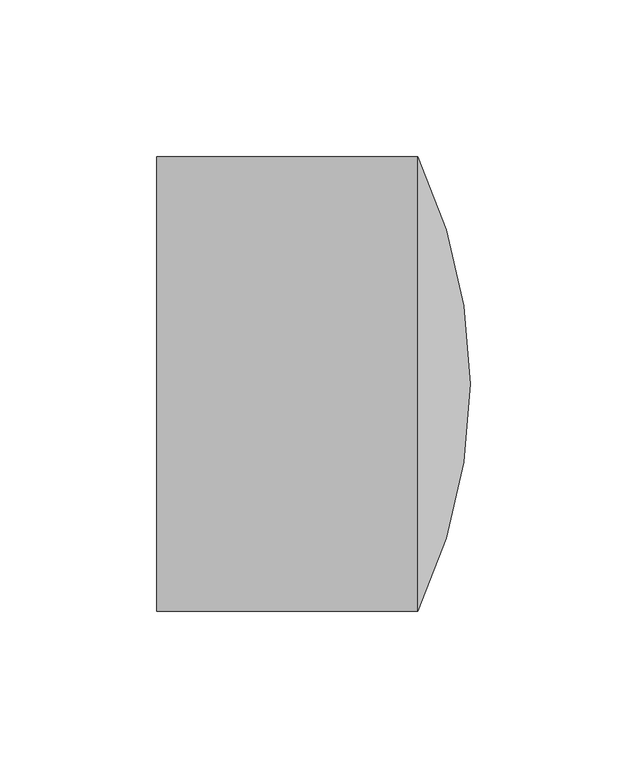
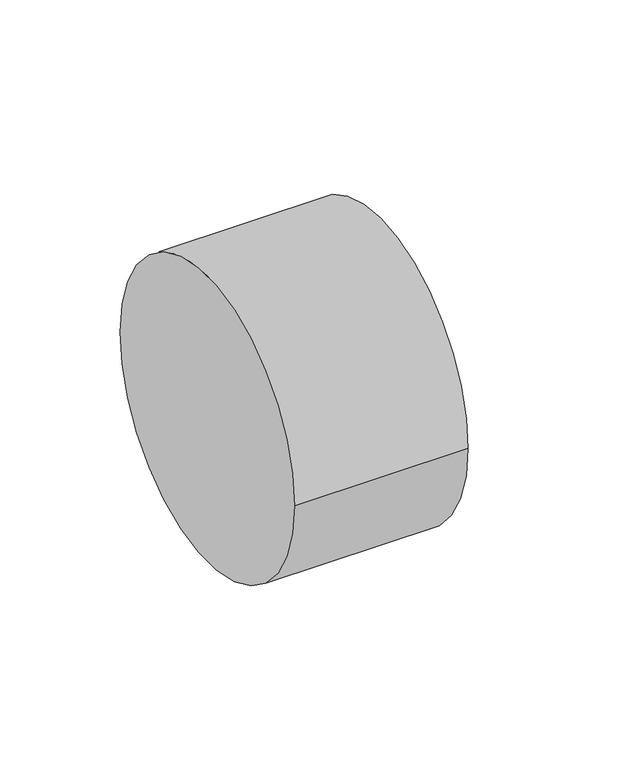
"""IFC4 building model written with IfcOpenShell, lengths in millimetres: pipe fitting geometry, 01051012 : Tampão F."""

from ifc_helpers import new_model, si_unit, point, frame, origin, place, context, project, spatial, circle_curve, ellipse_curve, trimmed, source, transform, mapped, element, save
from ifc_brep_helpers import plane_surface, cylinder_surface, revolved_surface, advanced_brep


def pipe_fitting_13b92508(model_context):
    return source(origin(), model_context, "Body", "AdvancedBrep", [
        advanced_brep(
        [(83.3333333, 72.5, 0.0), (100.0, 0.0, 0.0), (83.3333333, -72.5, 0.0), (0.0, -72.5, 0.0), (0.0, 72.5, 0.0)],
        [
            (0, 1, circle_curve(frame((-71.8638546, -1.3432233, 0.0), z_axis=(0.0, 0.0, -1.0), x_axis=(1.0, 0.0, 0.0)), 171.8691036)),
            (1, 2, circle_curve(frame((-71.8638546, 1.3432233, 0.0), z_axis=(0.0, 0.0, -1.0), x_axis=(1.0, 0.0, 0.0)), 171.8691036)),
            (2, 0, circle_curve(frame((83.3333333, 0.0, 0.0), z_axis=(1.0, 0.0, 0.0), x_axis=(0.0, 1.0, 0.0)), 72.5)),
            (0, 2, circle_curve(frame((83.3333333, 0.0, 0.0), z_axis=(1.0, 0.0, 0.0), x_axis=(0.0, 1.0, 0.0)), 72.5)),
            (3, 4, circle_curve(frame((0.0, 0.0, 0.0), z_axis=(-1.0, 0.0, 0.0), x_axis=(0.0, 1.0, 0.0)), 72.5)),
            (4, 3, circle_curve(frame((0.0, 0.0, 0.0), z_axis=(-1.0, 0.0, 0.0), x_axis=(0.0, 1.0, 0.0)), 72.5)),
            (3, 2),
            (0, 4),
        ],
        [
            revolved_surface(trimmed(ellipse_curve(frame((-71.8638546, -1.3432233, 0.0), z_axis=(0.0, 0.0, 1.0), x_axis=(1.0, 0.0, 0.0)), 171.8691036, 171.8691036), [point((100.0, 0.0, 0.0))], [point((83.3333333, 72.5, 0.0))], True, "CARTESIAN"), (83.3333333, 0.0, 0.0), (-1.0, 0.0, 0.0)),
            plane_surface(frame((0.0, 0.0, 0.0), z_axis=(-1.0, 0.0, 0.0), x_axis=(0.0, 0.0, 1.0))),
            cylinder_surface(frame((0.0, 0.0, 0.0), z_axis=(-1.0, 0.0, 0.0), x_axis=(0.0, 1.0, 0.0)), 72.5),
        ],
        [
            (0, [[1, 2, 3]]),
            (0, [[-1, 4, -2]]),
            (1, [[5, 6]]),
            (2, [[-5, 7, -4, 8]]),
            (2, [[-6, -8, -3, -7]]),
        ],
    ),
    ])


if __name__ == "__main__":
    model = new_model("IFC4")
    model_context = context("Model", 3, world=origin())
    ifc_project = project(units=[si_unit("LENGTHUNIT", "METRE", prefix="MILLI")], contexts=[model_context])
    site = spatial("IfcSite", under=ifc_project)
    building = spatial("IfcBuilding", under=site)
    placement = place(None, origin())
    pipe_fitting_shape = pipe_fitting_13b92508(model_context)
    element("IfcPipeFitting", 1, ObjectType="01051012 : Tampão F", at=placement, inside=building, context=model_context, shape_type="MappedRepresentation", body=[
        mapped(pipe_fitting_shape, transform((0.0, 0.0, 0.0), x_axis=(1.0, 0.0, 0.0), y_axis=(0.0, 1.0, 0.0), z_axis=(0.0, 0.0, 1.0))),
    ])
    save(model, "model.ifc")
